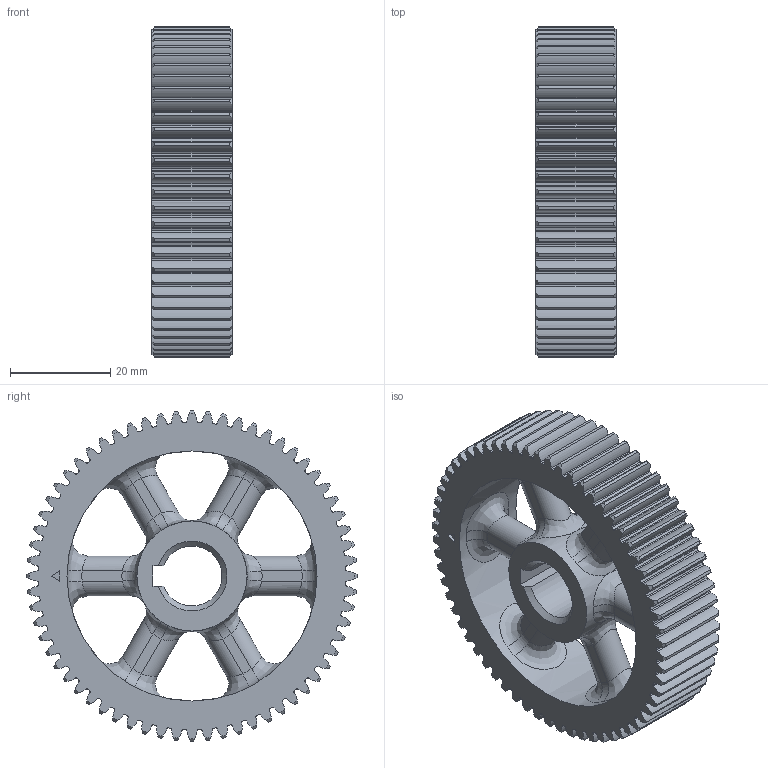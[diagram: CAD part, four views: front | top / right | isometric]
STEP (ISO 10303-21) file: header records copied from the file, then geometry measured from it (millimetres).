
FILE_DESCRIPTION(/* description */ (''),/* implementation_level */ '2;1');
FILE_NAME(/* name */ '',/* time_stamp */ '2026-07-31T13:47:49+09:00',/* author */ ('jhkim'),/* organization */ (''),/* preprocessor_version */ 'ST-DEVELOPER v20.1',/* originating_system */ 'Autodesk Inventor 2027',/* authorisation */ '');
FILE_SCHEMA (('AUTOMOTIVE_DESIGN { 1 0 10303 214 3 1 1 }'));
Length unit declared in the file: millimetre
Products named in the file (1): 스퍼 기어
Bounding box: 16 x 66 x 66 mm (x, y, z)
Volume: 27819 mm3; surface area: 14684.2 mm2
Topology: 1 solids, 1 shells, 605 faces, 1764 edges, 1158 vertices
Faces by surface type: cylinder 400, cone 130, plane 27, bspline 24, torus 24
Full cylindrical faces by diameter (mm): 22 x2, 50 x1
Entity records: 22405 total; most frequent: CARTESIAN_POINT 6068, DIRECTION 3612, ORIENTED_EDGE 3528, EDGE_CURVE 1764, AXIS2_PLACEMENT_3D 1586, VERTEX_POINT 1158, CIRCLE 1004, EDGE_LOOP 616
